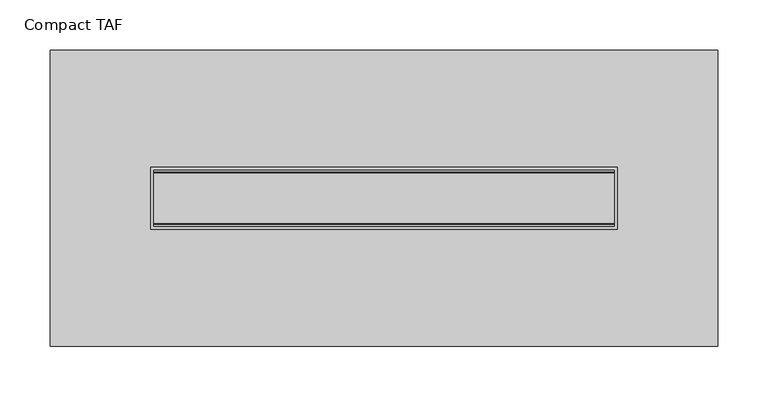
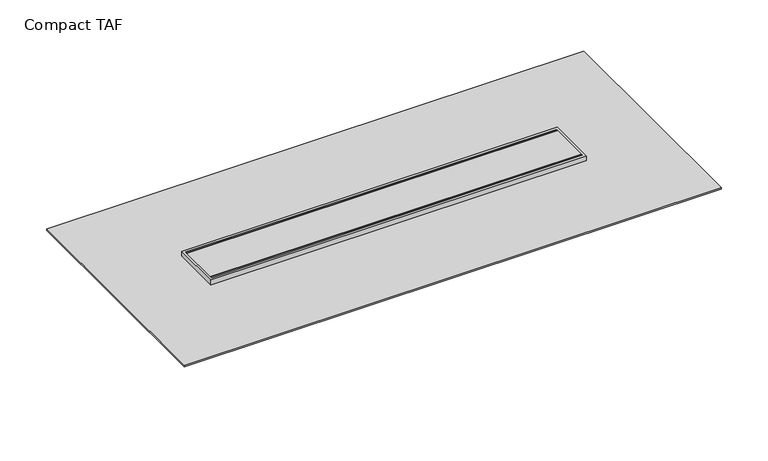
"""IFC4 building model written with IfcOpenShell, lengths in millimetres: sanitary terminal geometry, NLRS_PF_52_UN_Compact TAF_Easydrain : Compact TAF."""

from ifc_helpers import new_model, si_unit, frame, origin, place, context, project, spatial, polyline, circle_curve, ellipse_curve, outline, extrude, source, transform, mapped, element, save
from ifc_brep_helpers import plane_surface, cylinder_surface, advanced_brep


def compact_taf_aa2868d5(model_context):
    return source(origin(), model_context, "Body", "SolidModel", [
        extrude(outline(polyline([(229.5, 25.0), (229.5, -25.0), (-229.5, -25.0), (-229.5, 25.0), (229.5, 25.0)])), frame((0.0, 0.0, -12.0), z_axis=(0.0, 0.0, 1.0), x_axis=(1.0, 0.0, 0.0)), (0.0, 0.0, 1.0), 12.0),
        extrude(outline(polyline([(229.5, 26.0), (229.5, 25.0), (-229.5, 25.0), (-229.5, 26.0), (229.5, 26.0)])), frame((0.0, 0.0, -12.0), z_axis=(0.0, 0.0, 1.0), x_axis=(1.0, 0.0, 0.0)), (0.0, 0.0, 1.0), 12.0),
        extrude(outline(polyline([(229.5, -26.0), (-229.5, -26.0), (-229.5, -25.0), (229.5, -25.0), (229.5, -26.0)])), frame((0.0, 0.0, -12.0), z_axis=(0.0, 0.0, 1.0), x_axis=(1.0, 0.0, 0.0)), (0.0, 0.0, 1.0), 12.0),
        extrude(outline(polyline([(332.5, 147.5), (332.5, -147.5), (-332.5, -147.5), (-332.5, 147.5), (332.5, 147.5)]), holes=[polyline([(232.5, 31.0), (-232.5, 31.0), (-232.5, -31.0), (232.5, -31.0), (232.5, 31.0)])]), frame((0.0, 0.0, -8.0), z_axis=(0.0, 0.0, 1.0), x_axis=(1.0, 0.0, 0.0)), (0.0, 0.0, 1.0), 2.0),
        advanced_brep(
        [(-232.5, -31.0, -25.0), (-110.0, -31.0, -27.0), (-110.0, -31.0, -70.0), (110.0, -31.0, -70.0), (110.0, -31.0, -27.0), (232.5, -31.0, -25.0), (232.5, -31.0, -9.0), (-232.5, -31.0, -9.0), (0.0, -31.0, -25.0), (0.0, -31.0, -65.0), (232.5, -31.0, 0.0), (-232.5, -31.0, 0.0), (-232.5, -31.0, -7.0), (232.5, -31.0, -7.0), (-232.5, 31.0, 0.0), (232.5, 31.0, 0.0), (232.5, 31.0, -7.0), (-232.5, 31.0, -7.0), (232.5, 31.0, -25.0), (110.0, 31.0, -27.0), (110.0, 31.0, -70.0), (-110.0, 31.0, -70.0), (-110.0, 31.0, -27.0), (-232.5, 31.0, -25.0), (-232.5, 31.0, -9.0), (232.5, 31.0, -9.0), (-212.5, 0.0, -25.3265306), (-172.5, 0.0, -25.9795918), (232.5, 30.0, -9.0), (232.5, -30.0, -9.0), (232.5, -30.0, -7.0), (232.5, 30.0, -7.0), (-229.5, 28.0, 0.0), (229.5, 28.0, 0.0), (229.5, -28.0, 0.0), (-229.5, -28.0, 0.0), (-232.5, -30.0, -9.0), (-232.5, 30.0, -9.0), (-232.5, 30.0, -7.0), (-232.5, -30.0, -7.0), (172.5, 0.0, -25.9795918), (212.5, 0.0, -25.3265306), (0.0, -50.0, -25.0), (0.0, -50.0, -65.0), (229.5, 28.0, -12.0), (-229.5, 28.0, -12.0), (-229.5, -28.0, -12.0), (229.5, -28.0, -12.0), (250.0, 47.5, -7.0), (-250.0, 47.5, -7.0), (-250.0, -64.5, -7.0), (250.0, -64.5, -7.0), (250.0, 47.5, -9.0), (250.0, -64.5, -9.0), (-250.0, -64.5, -9.0), (-250.0, 47.5, -9.0), (-212.5, 0.0, -70.0), (-172.5, 0.0, -70.0), (172.5, 0.0, -70.0), (212.5, 0.0, -70.0)],
        [
            (0, 1),
            (1, 2),
            (2, 3),
            (3, 4),
            (4, 5),
            (5, 6),
            (6, 7),
            (7, 0),
            (8, 9, circle_curve(frame((0.0, -31.0, -45.0), z_axis=(0.0, 1.0, 0.0), x_axis=(0.0, 0.0, -1.0)), 20.0)),
            (9, 8, circle_curve(frame((0.0, -31.0, -45.0), z_axis=(0.0, 1.0, 0.0), x_axis=(0.0, 0.0, -1.0)), 20.0)),
            (10, 11),
            (11, 12),
            (12, 13),
            (13, 10),
            (14, 15),
            (15, 16),
            (16, 17),
            (17, 14),
            (18, 19),
            (19, 20),
            (20, 21),
            (21, 22),
            (22, 23),
            (23, 24),
            (24, 25),
            (25, 18),
            (0, 23),
            (22, 1),
            (26, 27, ellipse_curve(frame((-192.5, 0.0, -25.6530612), z_axis=(0.01632435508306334, 0.0, 0.9998667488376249), x_axis=(-0.9998667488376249, 0.0, 0.01632435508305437)), 20.0026654, 20.0)),
            (27, 26, ellipse_curve(frame((-192.5, 0.0, -25.6530612), z_axis=(0.01632435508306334, 0.0, 0.9998667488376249), x_axis=(-0.9998667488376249, 0.0, 0.01632435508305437)), 20.0026654, 20.0)),
            (5, 18),
            (25, 28),
            (28, 29),
            (29, 6),
            (15, 10),
            (13, 30),
            (30, 31),
            (31, 16),
            (14, 11),
            (32, 33),
            (33, 34),
            (34, 35),
            (35, 32),
            (7, 36),
            (36, 37),
            (37, 24),
            (17, 38),
            (38, 39),
            (39, 12),
            (21, 2),
            (20, 3),
            (19, 4),
            (40, 41, ellipse_curve(frame((192.5, 0.0, -25.6530612), z_axis=(-0.016324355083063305, 0.0, 0.9998667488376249), x_axis=(0.9998667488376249, 0.0, 0.016324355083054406)), 20.0026654, 20.0)),
            (41, 40, ellipse_curve(frame((192.5, 0.0, -25.6530612), z_axis=(-0.016324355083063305, 0.0, 0.9998667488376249), x_axis=(0.9998667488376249, 0.0, 0.016324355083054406)), 20.0026654, 20.0)),
            (42, 43, circle_curve(frame((0.0, -50.0, -45.0), z_axis=(0.0, -1.0, 0.0), x_axis=(0.0, 0.0, -1.0)), 20.0)),
            (43, 42, circle_curve(frame((0.0, -50.0, -45.0), z_axis=(0.0, -1.0, 0.0), x_axis=(0.0, 0.0, -1.0)), 20.0)),
            (43, 9),
            (8, 42),
            (44, 45),
            (45, 46),
            (46, 47),
            (47, 44),
            (44, 33),
            (32, 45),
            (35, 46),
            (34, 47),
            (48, 49),
            (49, 50),
            (50, 51),
            (51, 48),
            (52, 53),
            (53, 54),
            (54, 55),
            (55, 52),
            (48, 52),
            (55, 49),
            (54, 50),
            (53, 51),
            (56, 57, circle_curve(frame((-192.5, 0.0, -70.0), z_axis=(0.0, 0.0, -1.0), x_axis=(1.0, 0.0, 0.0)), 20.0)),
            (57, 56, circle_curve(frame((-192.5, 0.0, -70.0), z_axis=(0.0, 0.0, -1.0), x_axis=(1.0, 0.0, 0.0)), 20.0)),
            (58, 59, circle_curve(frame((192.5, 0.0, -70.0), z_axis=(0.0, 0.0, -1.0), x_axis=(1.0, 0.0, 0.0)), 20.0)),
            (59, 58, circle_curve(frame((192.5, 0.0, -70.0), z_axis=(0.0, 0.0, -1.0), x_axis=(1.0, 0.0, 0.0)), 20.0)),
            (57, 27),
            (26, 56),
            (59, 41),
            (40, 58),
        ],
        [
            plane_surface(frame((-232.5, -31.0, -25.0), z_axis=(0.0, -1.0000000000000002, 0.0), x_axis=(0.9998667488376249, 0.0, -0.01632435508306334))),
            plane_surface(frame((-232.5, 31.0, -25.0), z_axis=(0.0, 1.0000000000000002, 0.0), x_axis=(-0.9998667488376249, 0.0, 0.01632435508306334))),
            plane_surface(frame((-232.5, -31.0, -25.0), z_axis=(-0.01632435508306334, 0.0, -0.9998667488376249), x_axis=(0.0, 1.0, 0.0))),
            plane_surface(frame((232.5, -31.0, -25.0), z_axis=(1.0, 0.0, 0.0), x_axis=(0.0, 1.0, 0.0))),
            plane_surface(frame((232.5, -31.0, 0.0), z_axis=(0.0, 0.0, 1.0), x_axis=(0.0, 1.0, 0.0))),
            plane_surface(frame((-232.5, -31.0, 0.0), z_axis=(-1.0, 0.0, 0.0), x_axis=(0.0, 1.0, 0.0))),
            plane_surface(frame((-110.0, -31.0, -27.0), z_axis=(-1.0, 0.0, 0.0), x_axis=(0.0, 1.0, 0.0))),
            plane_surface(frame((-110.0, -31.0, -70.0), z_axis=(0.0, 0.0, -1.0), x_axis=(0.0, 1.0, 0.0))),
            plane_surface(frame((110.0, -31.0, -70.0), z_axis=(1.0, 0.0, 0.0), x_axis=(0.0, 1.0, 0.0))),
            plane_surface(frame((110.0, -31.0, -27.0), z_axis=(0.016324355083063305, 0.0, -0.9998667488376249), x_axis=(0.0, 1.0, 0.0))),
            plane_surface(frame((0.0, -50.0, -45.0), z_axis=(0.0, -1.0, 0.0), x_axis=(1.0, 0.0, 0.0))),
            cylinder_surface(frame((0.0, 0.0, -45.0), z_axis=(0.0, 1.0, 0.0), x_axis=(0.0, 0.0, -1.0)), 20.0),
            plane_surface(frame((-229.5, 28.0, -12.0), z_axis=(0.0, 0.0, 1.0), x_axis=(1.0, 0.0, 0.0))),
            plane_surface(frame((229.5, 28.0, 25.5943996), z_axis=(0.0, -1.0, 0.0), x_axis=(0.0, 0.0, -1.0))),
            plane_surface(frame((-229.5, 28.0, 25.5943996), z_axis=(1.0, 0.0, 0.0), x_axis=(0.0, 0.0, -1.0))),
            plane_surface(frame((-229.5, -28.0, 25.5943996), z_axis=(0.0, 1.0, 0.0), x_axis=(0.0, 0.0, -1.0))),
            plane_surface(frame((229.5, -28.0, 25.5943996), z_axis=(-1.0, 0.0, 0.0), x_axis=(0.0, 0.0, -1.0))),
            plane_surface(frame((232.5, 30.0, -7.0), z_axis=(0.0, 0.0, 1.0), x_axis=(0.0, -1.0, 0.0))),
            plane_surface(frame((232.5, 30.0, -9.0), z_axis=(0.0, 0.0, -1.0), x_axis=(0.0, 1.0, 0.0))),
            plane_surface(frame((250.0, 47.5, -7.0), z_axis=(0.0, 1.0, 0.0), x_axis=(0.0, 0.0, -1.0))),
            plane_surface(frame((-250.0, 47.5, -7.0), z_axis=(-1.0, 0.0, 0.0), x_axis=(0.0, 0.0, -1.0))),
            plane_surface(frame((-250.0, -64.5, -7.0), z_axis=(0.0, -1.0, 0.0), x_axis=(0.0, 0.0, -1.0))),
            plane_surface(frame((250.0, -64.5, -7.0), z_axis=(1.0, 0.0, 0.0), x_axis=(0.0, 0.0, -1.0))),
            plane_surface(frame((-172.5, 0.0, -70.0), z_axis=(0.0, 0.0, -1.0), x_axis=(0.0, -1.0, 0.0))),
            cylinder_surface(frame((-192.5, 0.0, -70.0), z_axis=(0.0, 0.0, 1.0), x_axis=(1.0, 0.0, 0.0)), 20.0),
            cylinder_surface(frame((192.5, 0.0, 0.0), z_axis=(0.0, 0.0, 1.0), x_axis=(1.0, 0.0, 0.0)), 20.0),
        ],
        [
            (0, [[1, 2, 3, 4, 5, 6, 7, 8], [9, 10]]),
            (0, [[11, 12, 13, 14]]),
            (1, [[15, 16, 17, 18]]),
            (1, [[19, 20, 21, 22, 23, 24, 25, 26]]),
            (2, [[-1, 27, -23, 28], [29, 30]]),
            (3, [[31, -26, 32, 33, 34, -6]]),
            (3, [[35, -14, 36, 37, 38, -16]]),
            (4, [[-11, -35, -15, 39], [40, 41, 42, 43]]),
            (5, [[-27, -8, 44, 45, 46, -24]]),
            (5, [[-39, -18, 47, 48, 49, -12]]),
            (6, [[-2, -28, -22, 50]]),
            (7, [[-3, -50, -21, 51]]),
            (8, [[-4, -51, -20, 52]]),
            (9, [[-5, -52, -19, -31], [53, 54]]),
            (10, [[55, 56]]),
            (11, [[-56, 57, -9, 58]]),
            (11, [[-55, -58, -10, -57]]),
            (12, [[59, 60, 61, 62]]),
            (13, [[-59, 63, -40, 64]]),
            (14, [[-60, -64, -43, 65]]),
            (15, [[-61, -65, -42, 66]]),
            (16, [[-62, -66, -41, -63]]),
            (17, [[67, 68, 69, 70], [-13, -49, -48, -47, -17, -38, -37, -36]]),
            (18, [[71, 72, 73, 74], [-7, -34, -33, -32, -25, -46, -45, -44]]),
            (19, [[-67, 75, -74, 76]]),
            (20, [[-68, -76, -73, 77]]),
            (21, [[-69, -77, -72, 78]]),
            (22, [[-70, -78, -71, -75]]),
            (23, [[79, 80]]),
            (23, [[81, 82]]),
            (24, [[-80, 83, -29, 84]]),
            (24, [[-79, -84, -30, -83]]),
            (25, [[-82, 85, -53, 86]]),
            (25, [[-81, -86, -54, -85]]),
        ],
    ),
    ])


if __name__ == "__main__":
    model = new_model("IFC4")
    model_context = context("Model", 3, world=origin())
    ifc_project = project(units=[si_unit("LENGTHUNIT", "METRE", prefix="MILLI")], contexts=[model_context])
    site = spatial("IfcSite", under=ifc_project)
    building = spatial("IfcBuilding", under=site)
    placement = place(None, origin())
    compact_taf_shape = compact_taf_aa2868d5(model_context)
    element("IfcSanitaryTerminal", 1, ObjectType="NLRS_PF_52_UN_Compact TAF_Easydrain : Compact TAF", at=placement, inside=building, context=model_context, shape_type="MappedRepresentation", body=[
        mapped(compact_taf_shape, transform((0.0, 0.0, 0.0), x_axis=(1.0, 0.0, 0.0), y_axis=(0.0, 1.0, 0.0), z_axis=(0.0, 0.0, 1.0))),
    ])
    save(model, "model.ifc")
